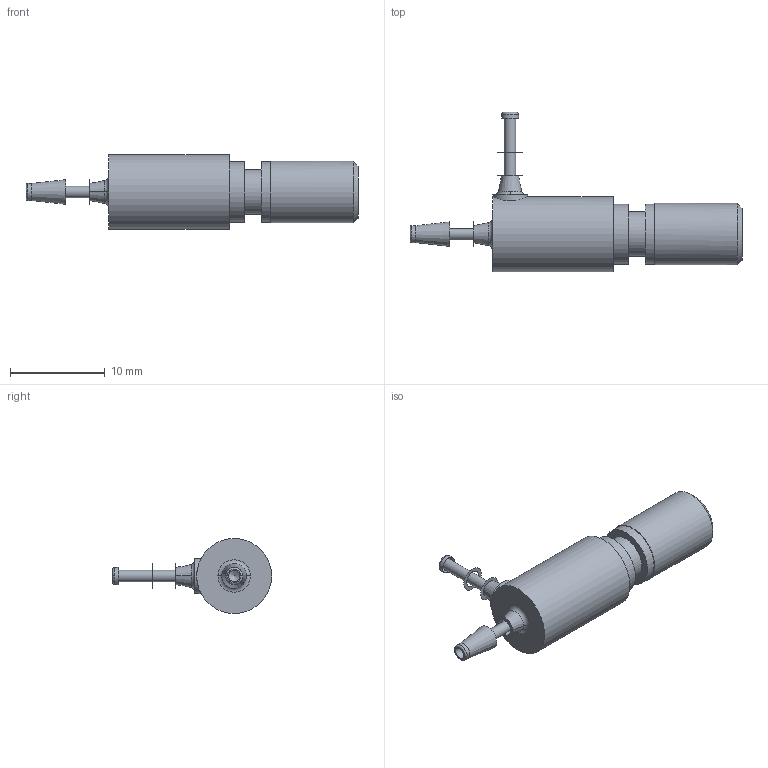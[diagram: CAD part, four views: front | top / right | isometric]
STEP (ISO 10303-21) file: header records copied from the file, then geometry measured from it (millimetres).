
FILE_DESCRIPTION(/* description */ ('SolidWorks IGES file using NURBS representation for surfaces '),/* implementation_level */ '2;1');
FILE_NAME(/* name */ 'K:\Normteile INVENTOR\Air-Logic\Needle Valves\F-2822-40-B80-KSSE.IGS.ipt.stp',/* time_stamp */ '2020-05-27T10:41:08+02:00',/* author */ ('amarsh'),/* organization */ (''),/* preprocessor_version */ 'ST-DEVELOPER v18',/* originating_system */ 'Autodesk Inventor 2020',/* authorisation */ '');
FILE_SCHEMA (('AUTOMOTIVE_DESIGN { 1 0 10303 214 3 1 1 }'));
Length unit declared in the file: millimetre
Products named in the file (1): F-2822-40-B80-KSSE.IGS
Bounding box: 35.07 x 16.83 x 7.92 mm (x, y, z)
Volume: 1090.8 mm3; surface area: 945.2 mm2
Topology: 2 solids, 2 shells, 43 faces, 109 edges, 79 vertices
Faces by surface type: plane 14, cone 11, cylinder 10, torus 8
Full cylindrical faces by diameter (mm): 1.2 x2, 1.8 x2, 3.7 x1, 4.7 x1, 6.35 x2, 6.5 x1, 7.92 x1
Entity records: 1461 total; most frequent: DIRECTION 279, CARTESIAN_POINT 263, ORIENTED_EDGE 214, AXIS2_PLACEMENT_3D 129, EDGE_CURVE 107, CIRCLE 85, VERTEX_POINT 79, EDGE_LOOP 54
